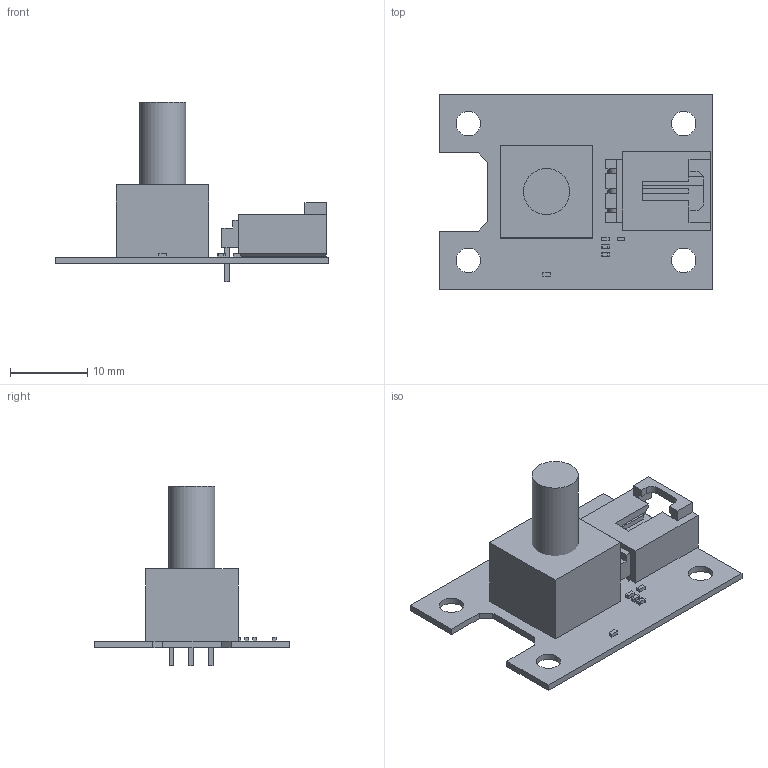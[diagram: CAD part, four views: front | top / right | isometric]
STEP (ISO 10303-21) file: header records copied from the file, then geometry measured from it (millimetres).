
FILE_DESCRIPTION(('Open CASCADE Model'),'2;1');
FILE_NAME('Open CASCADE Shape Model','2021-06-03T11:13:00',('Author'),( 'Open CASCADE'),'Open CASCADE STEP processor 6.8','Open CASCADE 6.8' ,'Unknown');
FILE_SCHEMA(('AUTOMOTIVE_DESIGN { 1 0 10303 214 1 1 1 1 }'));
Length unit declared in the file: millimetre
Products named in the file (22): PCB; Board; R2; 6061962432; Extruded; 6061962240; R1; 6061962048; C2; J1; 705530002; Open CASCADE STEP translator 6.8 1.5.1.1; Open CASCADE STEP translator 6.8 1.5.1.2; U1; 6061962816; Cylinder; 6061962624; C1; C3
Assembly tree (25 placements, depth 4):
  PCB
    Board
    R2
      6061962432
        Extruded
      6061962240
        Extruded
    R1
      6061962048
        Extruded
    C2
      6061962432
        Extruded
      6061962240
        Extruded
    J1
      705530002
        Open CASCADE STEP translator 6.8 1.5.1.1
        Open CASCADE STEP translator 6.8 1.5.1.2
    U1
      6061962816
        Cylinder
      6061962624
        Extruded
    C1
      6061962048
        Extruded
    C3
      6061962048
        Extruded
Bounding box: 35.56 x 25.4 x 23.34 mm (x, y, z)
Volume: 2814.5 mm3; surface area: 3619.5 mm2
Topology: 11 solids, 11 shells, 183 faces, 464 edges, 314 vertices
Faces by surface type: plane 167, cylinder 16
Full cylindrical faces by diameter (mm): 0.965 x3, 3.175 x4, 6 x1
Entity records: 5308 total; most frequent: CARTESIAN_POINT 883, DIRECTION 824, ORIENTED_EDGE 814, EDGE_CURVE 407, LINE 378, VECTOR 378, VERTEX_POINT 264, AXIS2_PLACEMENT_3D 223
